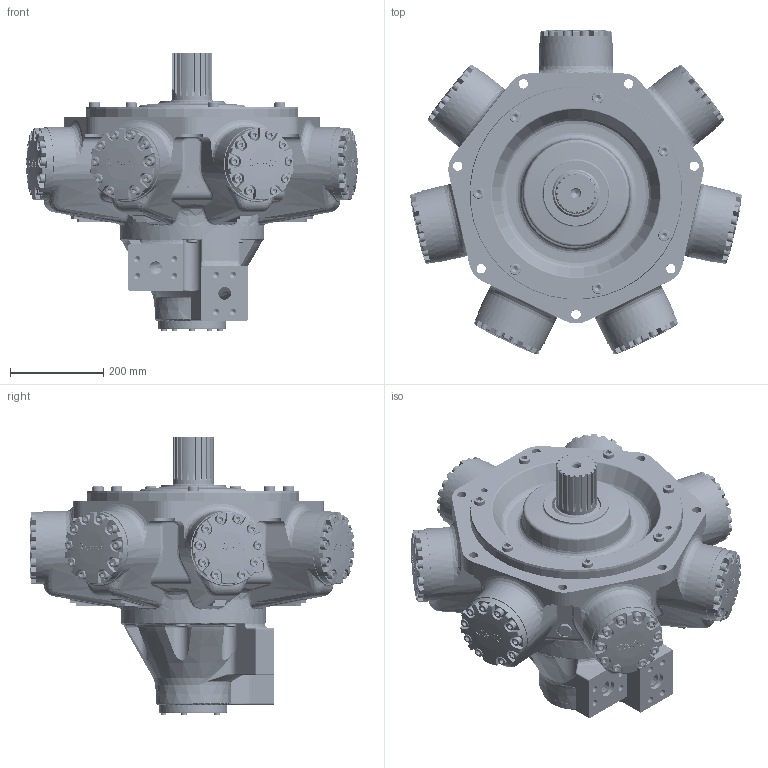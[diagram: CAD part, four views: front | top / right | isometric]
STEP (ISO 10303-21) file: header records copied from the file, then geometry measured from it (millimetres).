
FILE_DESCRIPTION((''),'2;1');
FILE_NAME('I:\Inventor\STAFFA MODEL LIBRARY\HMB270 S F4 70.stp','2007-02-22T13:05:21',('mnorman'),(''),'Autodesk Inventor 11','Autodesk Inventor 11','');
FILE_SCHEMA(('AUTOMOTIVE_DESIGN { 1 0 10303 214 1 1 1 1 }'));
Length unit declared in the file: millimetre
Products named in the file (1): HMB270 S F4 70
Bounding box: 712.75 x 697.38 x 598.03 mm (x, y, z)
Volume: 41003947.7 mm3; surface area: 3132146.3 mm2
Topology: 2 solids, 95 shells, 5154 faces, 12164 edges, 7569 vertices
Faces by surface type: plane 1822, bspline 1783, cylinder 948, cone 374, torus 223, sphere 4
Full cylindrical faces by diameter (mm): 7.938 x6, 11.328 x35, 11.913 x5, 12.7 x70, 13.5 x35, 15.875 x21, 19.05 x70, 20 x7, 20.6 x35, 23.825 x14, 25 x21, 25.4 x7, 28.575 x7, 28.677 x7, 38.1 x5, 38.176 x7, 79.375 x1, 87.889 x1, 88.9 x1, 92.075 x1, 92.15 x7, 92.151 x1, 101.283 x2, 101.485 x14, 101.575 x8, 101.605 x1, 101.651 x1, 105.664 x1, 127 x1, 139.7 x1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
Entity records: 278649 total; most frequent: CARTESIAN_POINT 178133, ORIENTED_EDGE 21400, DIRECTION 16997, EDGE_CURVE 10700, VERTEX_POINT 7236, EDGE_LOOP 6726, AXIS2_PLACEMENT_3D 6472, FACE_OUTER_BOUND 5151
